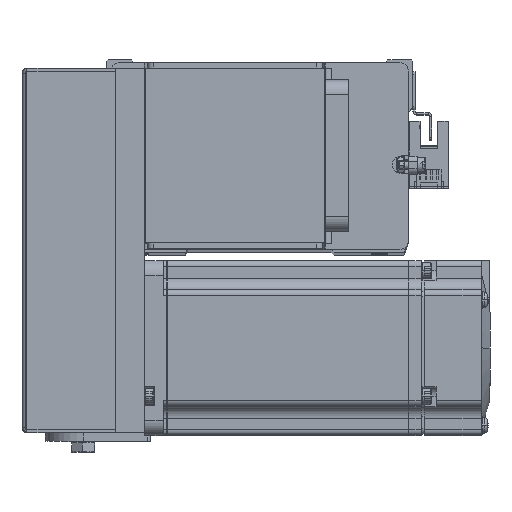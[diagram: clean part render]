
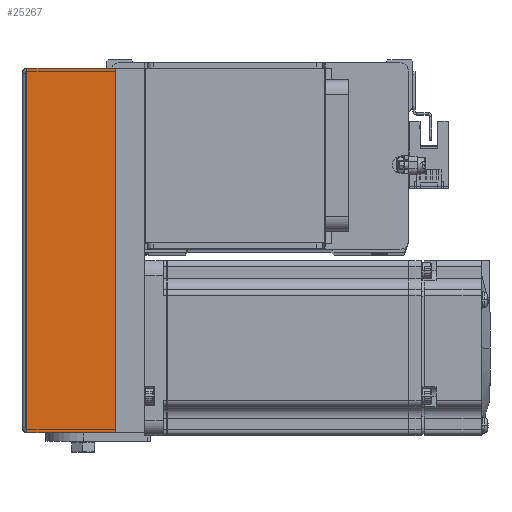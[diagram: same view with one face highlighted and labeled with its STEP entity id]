
A CAD part, top view. The second image highlights one B-rep face of the part: STEP entity #25267.
In plain terms, the highlighted planar face has unit normal (0, 0, 1) as drawn and (0, 0, -1) by its records, which use the part's own axes.
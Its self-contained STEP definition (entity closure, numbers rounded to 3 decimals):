
#89 = EDGE_CURVE ( 'NONE', #15388, #16622, #46103, .T. ) ;
#374 = CARTESIAN_POINT ( 'NONE',  ( -62.5, -30.3, -31. ) ) ;
#2388 = LINE ( 'NONE', #20721, #30190 ) ;
#5361 = CARTESIAN_POINT ( 'NONE',  ( 0., -30.8, -31. ) ) ;
#7059 = CARTESIAN_POINT ( 'NONE',  ( -62.5, 0., -31. ) ) ;
#8111 = VERTEX_POINT ( 'NONE', #7059 ) ;
#8579 = CARTESIAN_POINT ( 'NONE',  ( 62.5, -30.3, -31. ) ) ;
#9192 = ORIENTED_EDGE ( 'NONE', *, *, #24346, .T. ) ;
#10182 = ORIENTED_EDGE ( 'NONE', *, *, #89, .F. ) ;
#12448 = LINE ( 'NONE', #8579, #30532 ) ;
#12603 = DIRECTION ( 'NONE',  ( 0., 0., 1. ) ) ;
#13401 = DIRECTION ( 'NONE',  ( 0., 1., 0. ) ) ;
#13633 = CARTESIAN_POINT ( 'NONE',  ( 62.5, -30.3, -31. ) ) ;
#15081 = VECTOR ( 'NONE', #13401, 1000. ) ;
#15388 = VERTEX_POINT ( 'NONE', #13633 ) ;
#15646 = LINE ( 'NONE', #30331, #42631 ) ;
#16441 = DIRECTION ( 'NONE',  ( 0., 1., 0. ) ) ;
#16622 = VERTEX_POINT ( 'NONE', #40107 ) ;
#17547 = DIRECTION ( 'NONE',  ( 0., 1., 0. ) ) ;
#19180 = EDGE_CURVE ( 'NONE', #34973, #15388, #12448, .T. ) ;
#19675 = DIRECTION ( 'NONE',  ( 1., 0., 0. ) ) ;
#20721 = CARTESIAN_POINT ( 'NONE',  ( -62.5, -30.3, -31. ) ) ;
#20951 = EDGE_LOOP ( 'NONE', ( #29402, #9192, #34523, #10182 ) ) ;
#23605 = DIRECTION ( 'NONE',  ( 1., 0., 0. ) ) ;
#24346 = EDGE_CURVE ( 'NONE', #34973, #8111, #2388, .T. ) ;
#25267 = ADVANCED_FACE ( 'NONE', ( #34495 ), #31135, .F. ) ;
#29402 = ORIENTED_EDGE ( 'NONE', *, *, #19180, .F. ) ;
#30190 = VECTOR ( 'NONE', #17547, 1000. ) ;
#30331 = CARTESIAN_POINT ( 'NONE',  ( 0., 0., -31. ) ) ;
#30532 = VECTOR ( 'NONE', #19675, 1000. ) ;
#31135 = PLANE ( 'NONE',  #38689 ) ;
#31709 = CARTESIAN_POINT ( 'NONE',  ( 62.5, -30.3, -31. ) ) ;
#34495 = FACE_OUTER_BOUND ( 'NONE', #20951, .T. ) ;
#34523 = ORIENTED_EDGE ( 'NONE', *, *, #37706, .T. ) ;
#34973 = VERTEX_POINT ( 'NONE', #374 ) ;
#37706 = EDGE_CURVE ( 'NONE', #8111, #16622, #15646, .T. ) ;
#38689 = AXIS2_PLACEMENT_3D ( 'NONE', #5361, #12603, #16441 ) ;
#40107 = CARTESIAN_POINT ( 'NONE',  ( 62.5, 0., -31. ) ) ;
#42631 = VECTOR ( 'NONE', #23605, 1000. ) ;
#46103 = LINE ( 'NONE', #31709, #15081 ) ;
